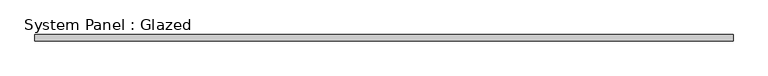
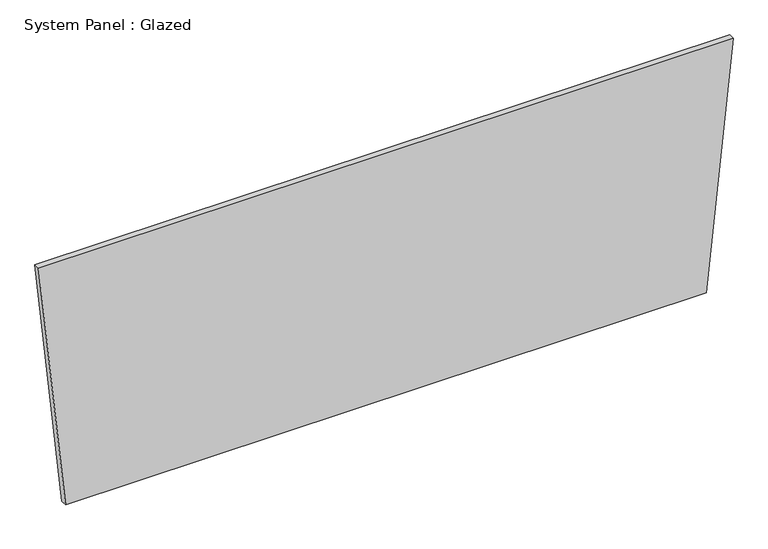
"""IFC4 building model written with IfcOpenShell, lengths in millimetres: plate geometry, System Panel : Glazed."""

import ifcopenshell
import ifcopenshell.guid

model = None  # the IFC model being written
_history = None  # IfcOwnerHistory: only IFC2X3 demands one
_inside = {}  # id of a spatial element -> (the spatial element, [elements in it])
_under = {}  # id of a project, library or spatial element -> (it, [spatial elements below it])
_declared = {}  # id of a project -> (the project, [libraries it declares])
_typed = {}  # id of a type object -> (the type object, [elements of that type])
_made_of = {}  # id of a material, layer set ... -> (it, [elements and type objects made of it])


def new_model(schema):
    """Start an empty IFC model of exactly this schema.

    Asked for "IFC4X3", IfcOpenShell would pick the latest addendum, in which some entities
    have other attributes; the version numbers below select the first issue.
    IFC2X3 requires an IfcOwnerHistory on every rooted entity: one is made here for all.
    """
    global model, _history
    if schema == "IFC4X3":
        model = ifcopenshell.file(schema_version=(4, 3, 0, 0))
    else:
        model = ifcopenshell.file(schema=schema)
    _inside.clear()
    _under.clear()
    _declared.clear()
    _typed.clear()
    _made_of.clear()
    _history = None
    if model.schema == "IFC2X3":
        org = make("IfcOrganization", Name="unknown")
        user = make(
            "IfcPersonAndOrganization",
            ThePerson=make("IfcPerson", FamilyName="unknown"),
            TheOrganization=org,
        )
        app = make(
            "IfcApplication",
            ApplicationDeveloper=org,
            Version="unknown",
            ApplicationFullName="unknown",
            ApplicationIdentifier="unknown",
        )
        _history = make(
            "IfcOwnerHistory",
            OwningUser=user,
            OwningApplication=app,
            ChangeAction="ADDED",
            CreationDate=0,
        )
    return model


def make(cls, **values):
    """One entity of the class cls with the attributes given. An attribute that is None is left unset."""
    return model.create_entity(
        cls, **{name: value for name, value in values.items() if value is not None}
    )


def rooted(cls, **values):
    """An entity with a GlobalId (a new one), such as an element, a storey or a relation."""
    return make(cls, GlobalId=ifcopenshell.guid.new(), OwnerHistory=_history, **values)


def si_unit(unit_type, name, prefix=None):
    """IfcSIUnit, for example si_unit("LENGTHUNIT", "METRE", prefix="MILLI")."""
    return make("IfcSIUnit", UnitType=unit_type, Prefix=prefix, Name=name)


def assignment(units):
    """IfcUnitAssignment: the units of a project."""
    return None if units is None else make("IfcUnitAssignment", Units=units)


def point(xyz):
    """IfcCartesianPoint."""
    return None if xyz is None else make("IfcCartesianPoint", Coordinates=xyz)


def direction(xyz):
    """IfcDirection."""
    return None if xyz is None else make("IfcDirection", DirectionRatios=xyz)


def frame(location, z_axis=None, x_axis=None):
    """IfcAxis2Placement3D, a coordinate frame: its origin and axes. An axis left out is left unset."""
    return make(
        "IfcAxis2Placement3D",
        Location=point(location),
        Axis=direction(z_axis),
        RefDirection=direction(x_axis),
    )


def origin():
    """The frame at (0, 0, 0) with its axes left unset."""
    return frame((0.0, 0.0, 0.0))


def place(relative_to, where):
    """IfcLocalPlacement: puts the frame where relative to a parent placement (None: the world)."""
    return make(
        "IfcLocalPlacement", PlacementRelTo=relative_to, RelativePlacement=where
    )


def context(
    kind, dimensions, precision=None, world=None, true_north=None, identifier=None
):
    """IfcGeometricRepresentationContext, for example the 3D "Model" context."""
    return make(
        "IfcGeometricRepresentationContext",
        ContextIdentifier=identifier,
        ContextType=kind,
        CoordinateSpaceDimension=dimensions,
        Precision=precision,
        WorldCoordinateSystem=world,
        TrueNorth=true_north,
    )


def project(units=None, contexts=None):
    """IfcProject with its units and contexts."""
    return rooted(
        "IfcProject",
        Name="project",
        RepresentationContexts=contexts,
        UnitsInContext=assignment(units),
    )


def spatial(cls, under=None, at=None, **own):
    """A site, building, storey or space (cls), placed at a placement, below another one or the project."""
    s = rooted(cls, ObjectPlacement=at, **own)
    if under is not None:
        _under.setdefault(under.id(), (under, []))[1].append(s)
    return s


def polyline(points):
    """IfcPolyline through the points."""
    return make("IfcPolyline", Points=[point(p) for p in points])


def outline(outer, holes=None, kind="AREA"):
    """IfcArbitraryClosedProfileDef: a profile drawn as a closed curve; with holes, ...WithVoids."""
    if holes is None:
        return make("IfcArbitraryClosedProfileDef", ProfileType=kind, OuterCurve=outer)
    return make(
        "IfcArbitraryProfileDefWithVoids",
        ProfileType=kind,
        OuterCurve=outer,
        InnerCurves=holes,
    )


def extrude(swept, where, along, depth):
    """IfcExtrudedAreaSolid: the profile swept, set in the frame where, extruded along a direction by depth."""
    return make(
        "IfcExtrudedAreaSolid",
        SweptArea=swept,
        Position=where,
        ExtrudedDirection=direction(along),
        Depth=depth,
    )


def shape(context_of_items, identifier, shape_type, items):
    """IfcShapeRepresentation: the items that make up one representation, for example the "Body"."""
    return make(
        "IfcShapeRepresentation",
        ContextOfItems=context_of_items,
        RepresentationIdentifier=identifier,
        RepresentationType=shape_type,
        Items=items,
    )


def source(mapping_origin, context_of_items, identifier, shape_type, items):
    """IfcRepresentationMap: a shape defined once, which mapped items show again and again."""
    return make(
        "IfcRepresentationMap",
        MappingOrigin=mapping_origin,
        MappedRepresentation=shape(context_of_items, identifier, shape_type, items),
    )


def transform(
    local_origin,
    x_axis=None,
    y_axis=None,
    z_axis=None,
    scale=None,
    scale2=None,
    scale3=None,
    uniform=True,
):
    """IfcCartesianTransformationOperator3D, or its non-uniform kind. x_axis, y_axis, z_axis: its Axis1, 2, 3."""
    if uniform:
        return make(
            "IfcCartesianTransformationOperator3D",
            Axis1=direction(x_axis),
            Axis2=direction(y_axis),
            LocalOrigin=point(local_origin),
            Scale=scale,
            Axis3=direction(z_axis),
        )
    return make(
        "IfcCartesianTransformationOperator3DnonUniform",
        Axis1=direction(x_axis),
        Axis2=direction(y_axis),
        LocalOrigin=point(local_origin),
        Scale=scale,
        Axis3=direction(z_axis),
        Scale2=scale2,
        Scale3=scale3,
    )


def mapped(mapping_source, mapping_target):
    """IfcMappedItem: shows the shape of a source again, moved by a transform."""
    return make(
        "IfcMappedItem", MappingSource=mapping_source, MappingTarget=mapping_target
    )


def made_of(thing, what):
    """Note that an element or type object is made of a material, layer set ...; save() writes the relation."""
    if what is not None:
        _made_of.setdefault(what.id(), (what, []))[1].append(thing)
    return thing


def element(
    cls,
    number,
    at=None,
    inside=None,
    cuts=None,
    type_object=None,
    material=None,
    context=None,
    identifier="Body",
    shape_type=None,
    held_by="IfcProductDefinitionShape",
    body=None,
    shapes=None,
    **own,
):
    """One element of the class cls, such as IfcWall. Its Tag is "e" and its number.

    at: its placement. inside: the storey or other place that contains it. cuts: it is an
    opening in that element (IfcRelVoidsElement). A single representation is given by context,
    identifier, shape_type and body (its items); several are given by shapes. held_by: the class
    of the entity that holds the representations. save() writes the other relations.
    """
    e = rooted(cls, Tag="e%d" % number, ObjectPlacement=at, **own)
    if body is not None:
        shapes = [shape(context, identifier, shape_type, body)]
    if shapes is not None:
        e.Representation = make(held_by, Representations=shapes)
    if inside is not None:
        _inside.setdefault(inside.id(), (inside, []))[1].append(e)
    if cuts is not None:
        rooted(
            "IfcRelVoidsElement", RelatingBuildingElement=cuts, RelatedOpeningElement=e
        )
    if type_object is not None:
        _typed.setdefault(type_object.id(), (type_object, []))[1].append(e)
    return made_of(e, material)


def aggregate(whole, parts):
    """IfcRelAggregates: a whole, such as a stair, and the parts it consists of."""
    return rooted("IfcRelAggregates", RelatingObject=whole, RelatedObjects=parts)


def save(model, path):
    """Write the relations noted so far, then the file.

    IfcRelAggregates (storeys below a building ...), IfcRelContainedInSpatialStructure (elements
    in a storey), IfcRelDefinesByType, IfcRelAssociatesMaterial and IfcRelDeclares: one each for
    every whole, place, type object, material and project.
    """
    for whole, parts in _under.values():
        aggregate(whole, parts)
    for where, things in _inside.values():
        rooted(
            "IfcRelContainedInSpatialStructure",
            RelatedElements=things,
            RelatingStructure=where,
        )
    for kind, things in _typed.values():
        rooted("IfcRelDefinesByType", RelatedObjects=things, RelatingType=kind)
    for what, things in _made_of.values():
        rooted("IfcRelAssociatesMaterial", RelatedObjects=things, RelatingMaterial=what)
    for by, libraries in _declared.values():
        rooted("IfcRelDeclares", RelatingContext=by, RelatedDefinitions=libraries)
    model.write(path)


def system_panel_glazed_642925df(model_context):
    return source(origin(), model_context, "Body", "SweptSolid", [
        extrude(outline(polyline([(0.0, -1309.6747893), (0.0, 1309.6747893), (1061.0613765, 1420.1781615), (1061.0613765, -1420.1781615), (0.0, -1309.6747893)])), frame((0.0, -44.45, 0.0), z_axis=(0.0, 1.0, 0.0), x_axis=(0.0, 0.0, 1.0)), (0.0, 0.0, 1.0), 25.4),
    ])


if __name__ == "__main__":
    model = new_model("IFC4")
    model_context = context("Model", 3, world=origin())
    ifc_project = project(units=[si_unit("LENGTHUNIT", "METRE", prefix="MILLI")], contexts=[model_context])
    site = spatial("IfcSite", under=ifc_project)
    building = spatial("IfcBuilding", under=site)
    placement = place(None, origin())
    system_panel_glazed_shape = system_panel_glazed_642925df(model_context)
    element("IfcPlate", 1, ObjectType="System Panel : Glazed", at=placement, inside=building, context=model_context, shape_type="MappedRepresentation", body=[
        mapped(system_panel_glazed_shape, transform((0.0, 0.0, 0.0), x_axis=(1.0, 0.0, 0.0), y_axis=(0.0, 1.0, 0.0), z_axis=(0.0, 0.0, 1.0))),
    ])
    save(model, "model.ifc")
